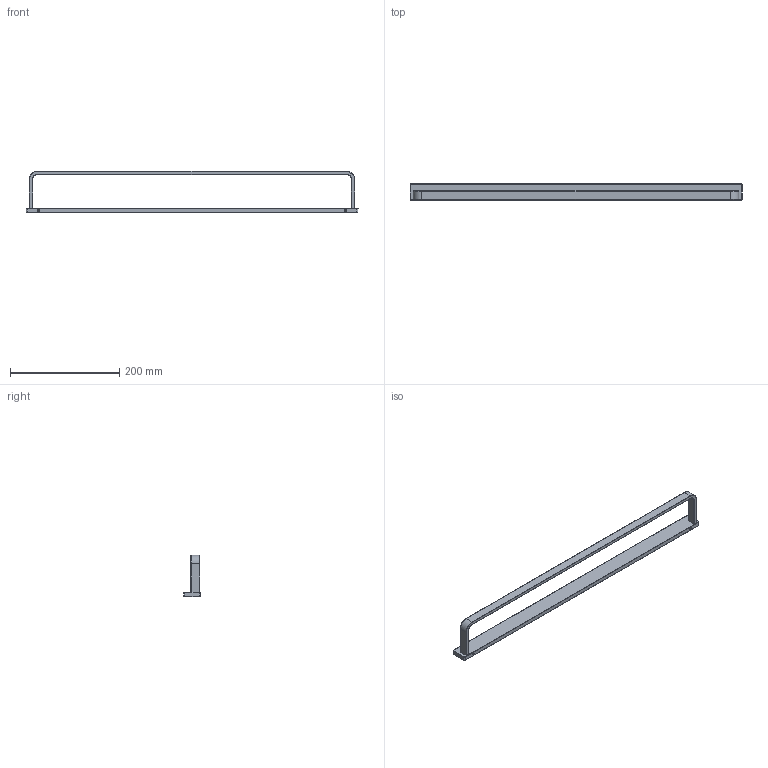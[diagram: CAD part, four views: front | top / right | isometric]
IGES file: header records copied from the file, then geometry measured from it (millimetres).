
Global section: file name: 0f665c52-b856-4105-a0e9-645318889ea6; native system: unknown; preprocessor: unknown; author: unknown; organization: unknown; date: 20200107.145106; units: millimetre
Bounding box: 608 x 30 x 76 mm (x, y, z)
Volume: 213635.5 mm3; surface area: 76967.8 mm2
Topology: 2 solids, 2 shells, 72 faces, 166 edges, 100 vertices
Faces by surface type: bspline 72
